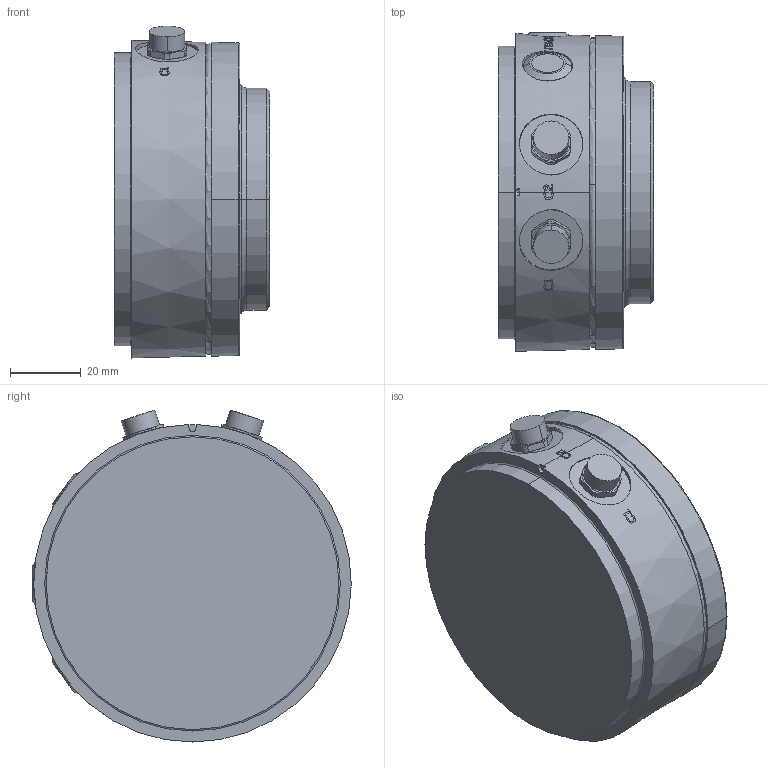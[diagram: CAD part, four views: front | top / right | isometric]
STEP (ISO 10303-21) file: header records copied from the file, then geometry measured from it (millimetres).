
FILE_DESCRIPTION (( 'STEP AP214' ), '1' );
FILE_NAME ('CRB1910_13kg-1340_OmniCore_rev00_Link6.step', '2026-03-26T03:34:10', ( '' ), ( '' ), 'SwSTEP 2.0', 'SolidWorks 2022', '' );
FILE_SCHEMA (( 'AUTOMOTIVE_DESIGN' ));
Length unit declared in the file: millimetre
Products named in the file (1): CRB1910_13kg-1340_OmniCore_rev00_Link6
Bounding box: 44.1 x 90.3 x 94.11 mm (x, y, z)
Volume: 236153.2 mm3; surface area: 28325 mm2
Topology: 1 solids, 1 shells, 533 faces, 1287 edges, 818 vertices
Faces by surface type: bspline 205, cone 120, cylinder 110, plane 76, torus 22
Entity records: 30985 total; most frequent: CARTESIAN_POINT 19088, ORIENTED_EDGE 2554, DIRECTION 1614, EDGE_CURVE 1277, VERTEX_POINT 818, AXIS2_PLACEMENT_3D 694, B_SPLINE_CURVE_WITH_KNOTS 686, EDGE_LOOP 611
